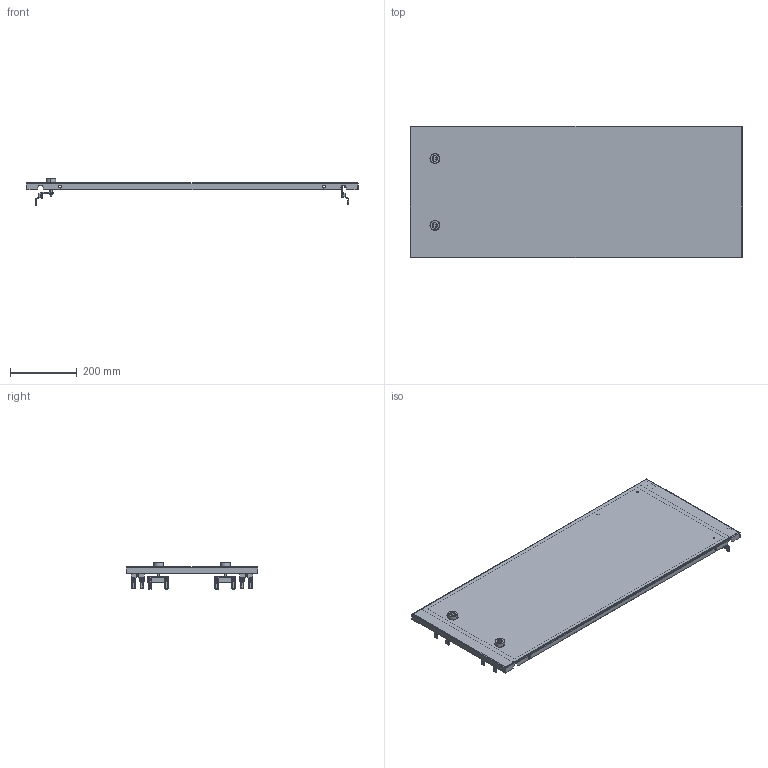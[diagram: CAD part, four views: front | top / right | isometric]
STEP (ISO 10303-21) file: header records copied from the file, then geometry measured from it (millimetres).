
FILE_DESCRIPTION(('CAx-IF Rec.Pracs.---Model Styling and Organization---1.2---2011-12-15','CAx-IF Rec.Pracs.---Geometric and Assembly Validation Properties---4.1---2014-06-16','CAx-IF Rec.Pracs.---PMI Polyline Presentation---2.0---2013-05-24'),'2;1');
FILE_NAME('R5CPMEM10400.stp','2021-05-06T03:59:55+03:00',(''),(''),'STEP Interface 4.4 by CT CoreTechnologie','3D_Evolution4.4 by CT CoreTechnologie','');
FILE_SCHEMA(('AUTOMOTIVE_DESIGN { 1 0 10303 214 1 1 1 1 }'));
Length unit declared in the file: millimetre
Products named in the file (17): R5CPMEM10400; RB.0116.00.00.2_-00; M6 x 16-DIN 7991 ISR_thread; RB.0556.00.00.3 ÑÁ_-11; Ì6õ12-A5100231_straight; AC00C061_AC00C061; AC00C266; Ì6õ12-A5100231_thread; PF 7x14 R5PKEB_0400x1000; RB.0556.00.01.1_-11; AC00C485; RB.0687.00.00.1; MS737-1-1(1); MS737-1-1 Z_ ªàëâ; MS737-1-1 stop_fixed; MS737-1-1(2); AC00C745
Assembly tree (39 placements, depth 3):
  R5CPMEM10400
    RB.0116.00.00.2_-00  x2
    M6 x 16-DIN 7991 ISR_thread  x8
    RB.0556.00.00.3 ÑÁ_-11
      Ì6õ12-A5100231_straight
      AC00C061_AC00C061  x3
      AC00C266  x2
      Ì6õ12-A5100231_thread  x2
      PF 7x14 R5PKEB_0400x1000
      RB.0556.00.01.1_-11
    AC00C485  x8
    RB.0687.00.00.1  x2
    MS737-1-1(1)
      MS737-1-1 Z_ ªàëâ
      MS737-1-1 stop_fixed
    MS737-1-1(2)
      MS737-1-1 Z_ ªàëâ
      MS737-1-1 stop_fixed
    AC00C745  x2
Bounding box: 994 x 395 x 77.95 mm (x, y, z)
Surface area: 1038682 mm2 (no closed solid volume)
Topology: 0 solids, 60 shells, 2336 faces, 6130 edges, 3896 vertices
Faces by surface type: bspline 868, cylinder 772, plane 696
Entity records: 35384 total; most frequent: CARTESIAN_POINT 11638, ORIENTED_EDGE 4986, DIRECTION 4630, EDGE_CURVE 2493, AXIS2_PLACEMENT_3D 1678, VERTEX_POINT 1612, VECTOR 1274, LINE 1274
